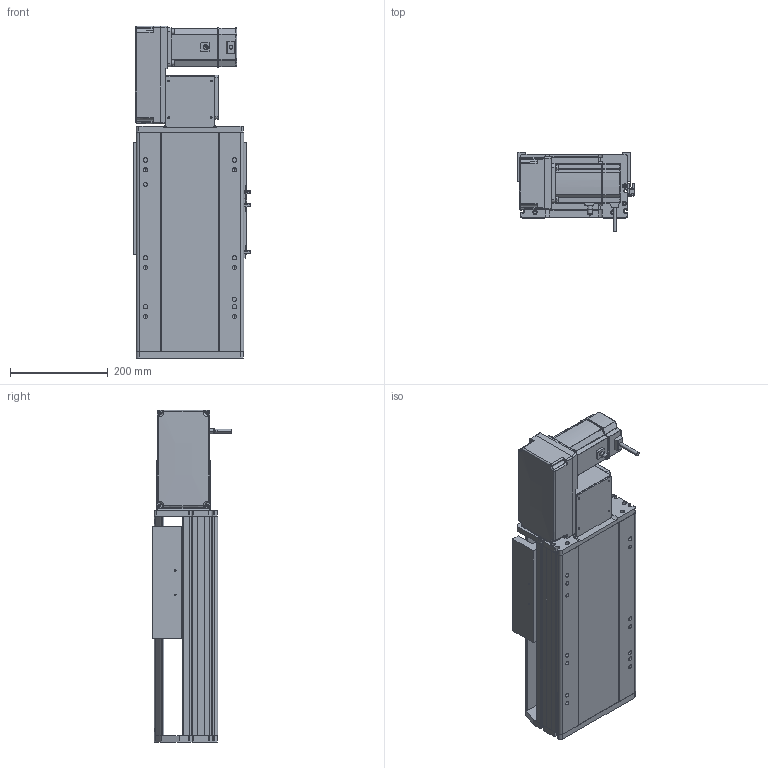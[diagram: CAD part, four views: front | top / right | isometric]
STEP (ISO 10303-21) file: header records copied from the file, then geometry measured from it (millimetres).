
FILE_DESCRIPTION (( 'STEP AP214' ), '1' );
FILE_NAME ('RTB22S-XX-100-L-M75-C4.STEP', '2025-12-12T03:10:19', ( '' ), ( '' ), 'SwSTEP 2.0', 'SolidWorks 2018', '' );
FILE_SCHEMA (( 'AUTOMOTIVE_DESIGN' ));
Length unit declared in the file: millimetre
Products named in the file (14): RTB22S-GY-005P^RTB22S-L-々湍釱蚾饜_RTB22S-XX-XX-L-M75-C4; RTH22-GY-013外置感应片^RTB22S-XX-XX-L-M75-C4; RTB22S-GY-014--々湍釱^RTB22S-L-々湍釱蚾饜_RTB22S-XX-XX-L-M75-C4; 750W萇儂^RTB22S-XX-XX-L-M75-C4; RTB22S-GY-008-M75--萇儂啣^RTB22S-L-々湍釱蚾饜_RTB22S-XX-XX-L-M75-C4; RTB22S-L-004賑釱^RTB22S-XX-XX-L-M75-C4; RTB22S-GY-007奻裔^RTB22S-XX-XX-L-M75-C4; RTB22S-GY-018P^RTB22S-L-々湍釱蚾饜_RTB22S-XX-XX-L-M75-C4; RTB22S-L-々湍釱蚾饜^RTB22S-XX-XX-L-M75-C4; RTB22S-L-011菁釱^RTB22S-XX-XX-L-M75-C4; OMRON EE-SX672 传感器^RTB22S-XX-XX-L-M75-C4; RTB22S-XX-100-L-M75-C4; RTB22S-GY-017P^RTB22S-L-々湍釱蚾饜_RTB22S-XX-XX-L-M75-C4; RTB22S-GY-001耜裔^RTB22S-XX-XX-L-M75-C4
Assembly tree (16 placements, depth 3):
  RTB22S-XX-100-L-M75-C4
    RTB22S-L-011菁釱^RTB22S-XX-XX-L-M75-C4
    750W萇儂^RTB22S-XX-XX-L-M75-C4
    RTB22S-L-004賑釱^RTB22S-XX-XX-L-M75-C4
    OMRON EE-SX672 传感器^RTB22S-XX-XX-L-M75-C4  x3
    RTH22-GY-013外置感应片^RTB22S-XX-XX-L-M75-C4
    RTB22S-GY-007奻裔^RTB22S-XX-XX-L-M75-C4
    RTB22S-GY-001耜裔^RTB22S-XX-XX-L-M75-C4
    RTB22S-L-々湍釱蚾饜^RTB22S-XX-XX-L-M75-C4
      RTB22S-GY-014--々湍釱^RTB22S-L-々湍釱蚾饜_RTB22S-XX-XX-L-M75-C4
      RTB22S-GY-017P^RTB22S-L-々湍釱蚾饜_RTB22S-XX-XX-L-M75-C4  x2
      RTB22S-GY-005P^RTB22S-L-々湍釱蚾饜_RTB22S-XX-XX-L-M75-C4
      RTB22S-GY-008-M75--萇儂啣^RTB22S-L-々湍釱蚾饜_RTB22S-XX-XX-L-M75-C4
      RTB22S-GY-018P^RTB22S-L-々湍釱蚾饜_RTB22S-XX-XX-L-M75-C4
Bounding box: 238.5 x 162.7 x 679 mm (x, y, z)
Volume: 10803092.6 mm3; surface area: 1168160.5 mm2
Topology: 15 solids, 15 shells, 1893 faces, 5136 edges, 3302 vertices
Faces by surface type: plane 905, cylinder 562, bspline 296, cone 118, sphere 8, torus 4
Entity records: 49478 total; most frequent: CARTESIAN_POINT 14432, ORIENTED_EDGE 7100, DIRECTION 6744, EDGE_CURVE 3550, AXIS2_PLACEMENT_3D 2346, VERTEX_POINT 2306, LINE 2052, VECTOR 2052
